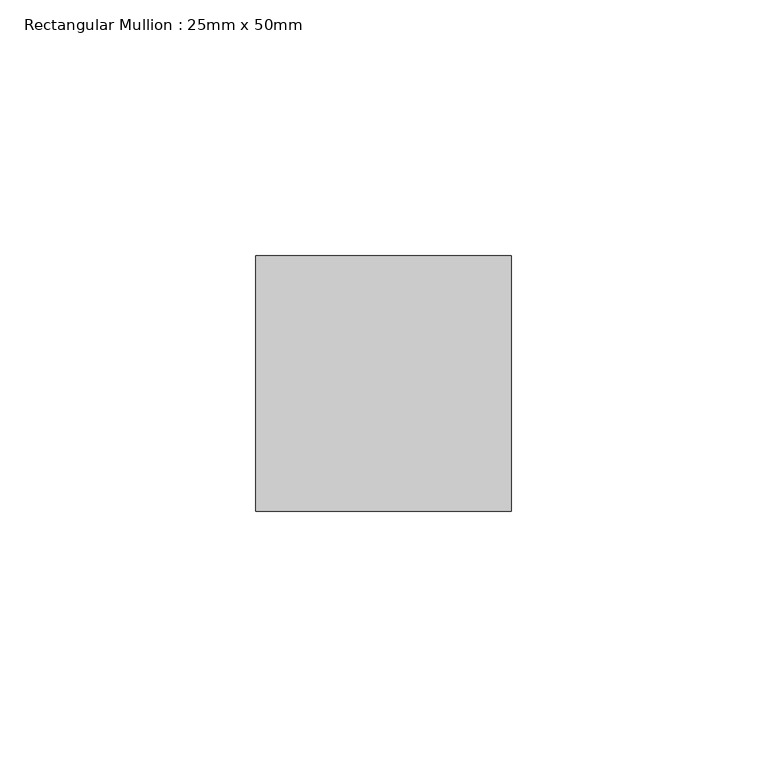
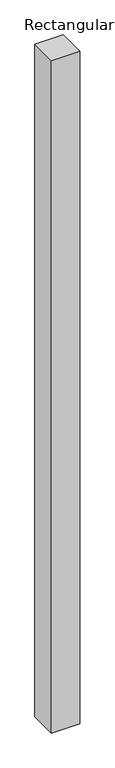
"""IFC4 building model written with IfcOpenShell, lengths in millimetres: member geometry, Rectangular Mullion : 25mm x 50mm."""

from ifc_helpers import new_model, si_unit, frame, origin, place, context, project, spatial, polyline, outline, extrude, source, transform, mapped, element, save


def rectangular_mullion_25mm_x_50mm_08a44de8(model_context):
    return source(origin(), model_context, "Body", "SweptSolid", [
        extrude(outline(polyline([(25.0, 25.0), (25.0, -25.0), (-25.0, -25.0), (-25.0, 25.0), (25.0, 25.0)])), frame((0.0, 0.0, -1246.4094012), z_axis=(0.0, 0.0, 1.0), x_axis=(1.0, 0.0, 0.0)), (0.0, 0.0, 1.0), 1246.4094012),
    ])


if __name__ == "__main__":
    model = new_model("IFC4")
    model_context = context("Model", 3, world=origin())
    ifc_project = project(units=[si_unit("LENGTHUNIT", "METRE", prefix="MILLI")], contexts=[model_context])
    site = spatial("IfcSite", under=ifc_project)
    building = spatial("IfcBuilding", under=site)
    placement = place(None, origin())
    rectangular_mullion_25mm_x_50mm_shape = rectangular_mullion_25mm_x_50mm_08a44de8(model_context)
    element("IfcMember", 1, ObjectType="Rectangular Mullion : 25mm x 50mm", at=placement, inside=building, context=model_context, shape_type="MappedRepresentation", body=[
        mapped(rectangular_mullion_25mm_x_50mm_shape, transform((0.0, 0.0, 0.0), x_axis=(1.0, 0.0, 0.0), y_axis=(0.0, 1.0, 0.0), z_axis=(0.0, 0.0, 1.0))),
    ])
    save(model, "model.ifc")
